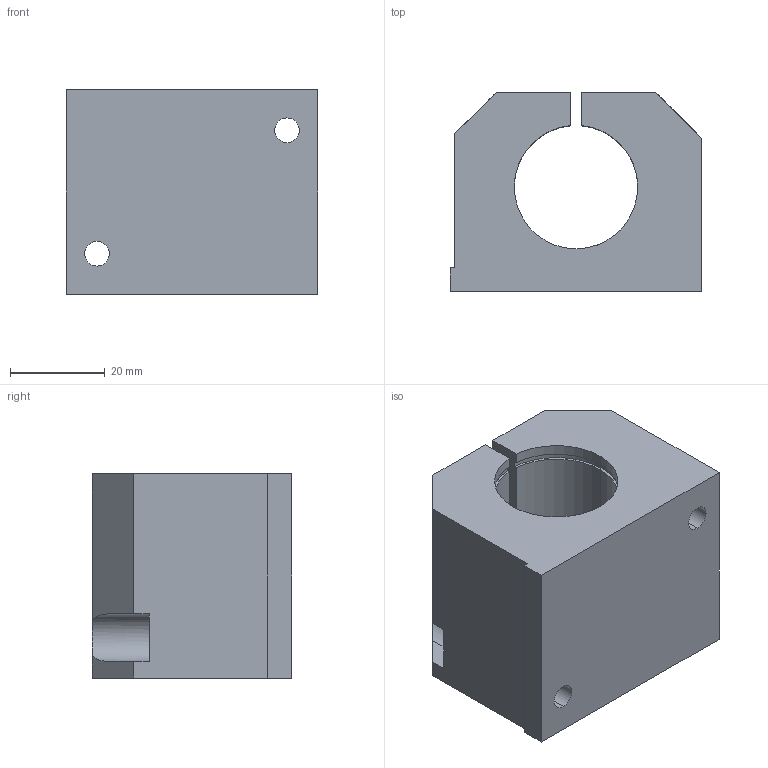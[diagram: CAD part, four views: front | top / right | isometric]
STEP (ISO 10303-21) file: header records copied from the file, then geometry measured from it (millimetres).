
FILE_DESCRIPTION (( 'STEP AP214' ), '1' );
FILE_NAME ('KGE36-16.step', '2020-03-04T13:19:22', ( '' ), ( '' ), 'SwSTEP 2.0', 'SolidWorks 2019', '' );
FILE_SCHEMA (( 'AUTOMOTIVE_DESIGN' ));
Length unit declared in the file: millimetre
Products named in the file (1): KGE36-16
Bounding box: 53 x 42 x 43 mm (x, y, z)
Volume: 62628.7 mm3; surface area: 17030.1 mm2
Topology: 1 solids, 1 shells, 61 faces, 168 edges, 109 vertices
Faces by surface type: cylinder 31, plane 26, cone 4
Entity records: 2132 total; most frequent: CARTESIAN_POINT 415, DIRECTION 340, ORIENTED_EDGE 332, EDGE_CURVE 166, AXIS2_PLACEMENT_3D 120, VERTEX_POINT 109, LINE 100, VECTOR 100
